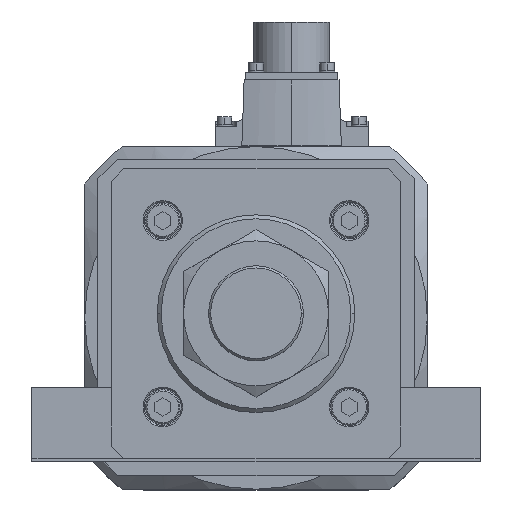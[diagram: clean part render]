
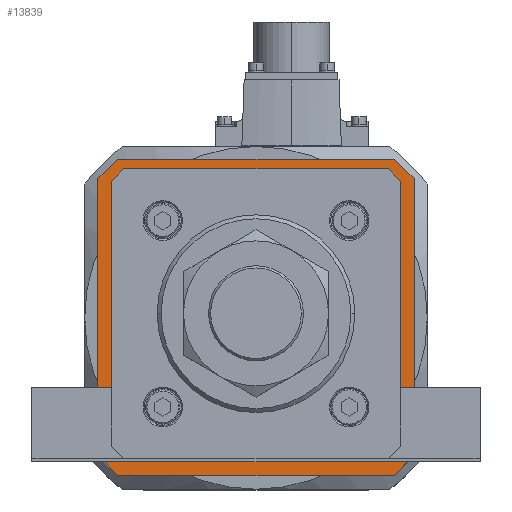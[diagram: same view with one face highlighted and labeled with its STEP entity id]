
A CAD part, top view. The second image highlights one B-rep face of the part: STEP entity #13839.
In plain terms, the highlighted planar face has unit normal (0, 0, 1).
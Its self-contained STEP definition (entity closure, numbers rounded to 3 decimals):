
#44 = VERTEX_POINT ( 'NONE', #32391 ) ;
#456 = LINE ( 'NONE', #16250, #7301 ) ;
#1405 = VECTOR ( 'NONE', #18153, 1000. ) ;
#1407 = EDGE_LOOP ( 'NONE', ( #6747, #28776, #30529, #7152, #24726, #5798, #3588, #14354 ) ) ;
#1465 = DIRECTION ( 'NONE',  ( 0., -1., 0. ) ) ;
#1663 = CARTESIAN_POINT ( 'NONE',  ( -60., -52.5, -119. ) ) ;
#1945 = CARTESIAN_POINT ( 'NONE',  ( -53.5, -49.593, -119. ) ) ;
#2141 = VERTEX_POINT ( 'NONE', #29421 ) ;
#2197 = EDGE_CURVE ( 'NONE', #25783, #32844, #23135, .T. ) ;
#2217 = LINE ( 'NONE', #4865, #24562 ) ;
#2408 = VERTEX_POINT ( 'NONE', #1663 ) ;
#2505 = EDGE_CURVE ( 'NONE', #18772, #2141, #6682, .T. ) ;
#2580 = VECTOR ( 'NONE', #32909, 1000. ) ;
#2734 = LINE ( 'NONE', #3337, #1405 ) ;
#3298 = LINE ( 'NONE', #31165, #33022 ) ;
#3337 = CARTESIAN_POINT ( 'NONE',  ( 52.5, -60., -119. ) ) ;
#3493 = VECTOR ( 'NONE', #33957, 1000. ) ;
#3588 = ORIENTED_EDGE ( 'NONE', *, *, #24661, .T. ) ;
#3602 = VECTOR ( 'NONE', #14915, 1000. ) ;
#4012 = ORIENTED_EDGE ( 'NONE', *, *, #2505, .F. ) ;
#4114 = VERTEX_POINT ( 'NONE', #36220 ) ;
#4865 = CARTESIAN_POINT ( 'NONE',  ( 53.5, -49.8, -119. ) ) ;
#5168 = CARTESIAN_POINT ( 'NONE',  ( 53.5, 49.593, -119. ) ) ;
#5350 = EDGE_CURVE ( 'NONE', #44, #32747, #35282, .T. ) ;
#5582 = CARTESIAN_POINT ( 'NONE',  ( 52.5, 60., -119. ) ) ;
#5798 = ORIENTED_EDGE ( 'NONE', *, *, #9530, .T. ) ;
#5887 = VERTEX_POINT ( 'NONE', #36443 ) ;
#6396 = LINE ( 'NONE', #23434, #3602 ) ;
#6682 = LINE ( 'NONE', #36843, #3493 ) ;
#6747 = ORIENTED_EDGE ( 'NONE', *, *, #35681, .T. ) ;
#6855 = DIRECTION ( 'NONE',  ( 0., 1., 0. ) ) ;
#7152 = ORIENTED_EDGE ( 'NONE', *, *, #35279, .T. ) ;
#7188 = CARTESIAN_POINT ( 'NONE',  ( -53.646, -49.446, -119. ) ) ;
#7301 = VECTOR ( 'NONE', #36630, 1000. ) ;
#7675 = VERTEX_POINT ( 'NONE', #28677 ) ;
#8189 = FACE_OUTER_BOUND ( 'NONE', #30070, .T. ) ;
#8686 = LINE ( 'NONE', #13316, #14164 ) ;
#9399 = ORIENTED_EDGE ( 'NONE', *, *, #2197, .F. ) ;
#9502 = EDGE_CURVE ( 'NONE', #2141, #44, #8686, .T. ) ;
#9530 = EDGE_CURVE ( 'NONE', #36061, #21616, #29676, .T. ) ;
#9971 = PLANE ( 'NONE',  #35302 ) ;
#10093 = CARTESIAN_POINT ( 'NONE',  ( 0., 0., -119. ) ) ;
#10452 = DIRECTION ( 'NONE',  ( 0.707, -0.707, 0. ) ) ;
#12014 = VECTOR ( 'NONE', #26883, 1000. ) ;
#13316 = CARTESIAN_POINT ( 'NONE',  ( 60., 52.5, -119. ) ) ;
#13519 = EDGE_CURVE ( 'NONE', #25162, #4114, #2217, .T. ) ;
#13839 = ADVANCED_FACE ( 'NONE', ( #15960, #8189 ), #9971, .T. ) ;
#14164 = VECTOR ( 'NONE', #1465, 1000. ) ;
#14343 = CARTESIAN_POINT ( 'NONE',  ( 52.5, 60., -119. ) ) ;
#14354 = ORIENTED_EDGE ( 'NONE', *, *, #35190, .T. ) ;
#14557 = CARTESIAN_POINT ( 'NONE',  ( 52.5, -60., -119. ) ) ;
#14648 = DIRECTION ( 'NONE',  ( 0., 1., 0. ) ) ;
#14915 = DIRECTION ( 'NONE',  ( 0.707, 0.707, 0. ) ) ;
#15264 = ORIENTED_EDGE ( 'NONE', *, *, #21603, .F. ) ;
#15456 = EDGE_CURVE ( 'NONE', #16184, #36061, #25834, .T. ) ;
#15574 = DIRECTION ( 'NONE',  ( 1., 0., 0. ) ) ;
#15759 = DIRECTION ( 'NONE',  ( -0.707, 0.707, 0. ) ) ;
#15960 = FACE_BOUND ( 'NONE', #1407, .T. ) ;
#16184 = VERTEX_POINT ( 'NONE', #19351 ) ;
#16188 = ORIENTED_EDGE ( 'NONE', *, *, #9502, .F. ) ;
#16223 = CARTESIAN_POINT ( 'NONE',  ( -53.5, 49.593, -119. ) ) ;
#16250 = CARTESIAN_POINT ( 'NONE',  ( 49.8, 53.5, -119. ) ) ;
#16599 = CARTESIAN_POINT ( 'NONE',  ( -49.593, -53.5, -119. ) ) ;
#17367 = CARTESIAN_POINT ( 'NONE',  ( -60., 52.5, -119. ) ) ;
#17838 = VECTOR ( 'NONE', #28602, 1000. ) ;
#18107 = CARTESIAN_POINT ( 'NONE',  ( 49.446, -53.646, -119. ) ) ;
#18153 = DIRECTION ( 'NONE',  ( -1., 0., 0. ) ) ;
#18560 = VERTEX_POINT ( 'NONE', #16223 ) ;
#18772 = VERTEX_POINT ( 'NONE', #5582 ) ;
#19307 = DIRECTION ( 'NONE',  ( -0.707, 0.707, 0. ) ) ;
#19351 = CARTESIAN_POINT ( 'NONE',  ( 49.593, -53.5, -119. ) ) ;
#20086 = ORIENTED_EDGE ( 'NONE', *, *, #35319, .F. ) ;
#20964 = LINE ( 'NONE', #26338, #24621 ) ;
#21603 = EDGE_CURVE ( 'NONE', #30441, #2408, #3298, .T. ) ;
#21616 = VERTEX_POINT ( 'NONE', #1945 ) ;
#22460 = EDGE_CURVE ( 'NONE', #7675, #25162, #34271, .T. ) ;
#22819 = VECTOR ( 'NONE', #15759, 1000. ) ;
#23135 = LINE ( 'NONE', #28224, #34109 ) ;
#23434 = CARTESIAN_POINT ( 'NONE',  ( -49.446, 53.646, -119. ) ) ;
#24452 = CARTESIAN_POINT ( 'NONE',  ( -60., 52.5, -119. ) ) ;
#24562 = VECTOR ( 'NONE', #32488, 1000. ) ;
#24621 = VECTOR ( 'NONE', #14648, 1000. ) ;
#24661 = EDGE_CURVE ( 'NONE', #21616, #18560, #20964, .T. ) ;
#24726 = ORIENTED_EDGE ( 'NONE', *, *, #15456, .T. ) ;
#25162 = VERTEX_POINT ( 'NONE', #5168 ) ;
#25783 = VERTEX_POINT ( 'NONE', #17367 ) ;
#25834 = LINE ( 'NONE', #29955, #2580 ) ;
#25956 = LINE ( 'NONE', #24452, #26889 ) ;
#26338 = CARTESIAN_POINT ( 'NONE',  ( -53.5, 49.8, -119. ) ) ;
#26883 = DIRECTION ( 'NONE',  ( -0.707, -0.707, 0. ) ) ;
#26889 = VECTOR ( 'NONE', #6855, 1000. ) ;
#27281 = DIRECTION ( 'NONE',  ( 0., 0., 1. ) ) ;
#27407 = LINE ( 'NONE', #14343, #17838 ) ;
#28224 = CARTESIAN_POINT ( 'NONE',  ( -52.5, 60., -119. ) ) ;
#28602 = DIRECTION ( 'NONE',  ( 1., 0., 0. ) ) ;
#28677 = CARTESIAN_POINT ( 'NONE',  ( 49.593, 53.5, -119. ) ) ;
#28776 = ORIENTED_EDGE ( 'NONE', *, *, #22460, .T. ) ;
#29421 = CARTESIAN_POINT ( 'NONE',  ( 60., 52.5, -119. ) ) ;
#29676 = LINE ( 'NONE', #7188, #22819 ) ;
#29953 = CARTESIAN_POINT ( 'NONE',  ( 60., -52.5, -119. ) ) ;
#29955 = CARTESIAN_POINT ( 'NONE',  ( -49.8, -53.5, -119. ) ) ;
#30070 = EDGE_LOOP ( 'NONE', ( #35311, #9399, #20086, #15264, #33368, #34431, #16188, #4012 ) ) ;
#30085 = LINE ( 'NONE', #18107, #34641 ) ;
#30441 = VERTEX_POINT ( 'NONE', #34969 ) ;
#30529 = ORIENTED_EDGE ( 'NONE', *, *, #13519, .T. ) ;
#30623 = EDGE_CURVE ( 'NONE', #32747, #30441, #2734, .T. ) ;
#31165 = CARTESIAN_POINT ( 'NONE',  ( -52.5, -60., -119. ) ) ;
#32391 = CARTESIAN_POINT ( 'NONE',  ( 60., -52.5, -119. ) ) ;
#32488 = DIRECTION ( 'NONE',  ( 0., -1., 0. ) ) ;
#32747 = VERTEX_POINT ( 'NONE', #14557 ) ;
#32844 = VERTEX_POINT ( 'NONE', #33235 ) ;
#32909 = DIRECTION ( 'NONE',  ( -1., 0., 0. ) ) ;
#33022 = VECTOR ( 'NONE', #19307, 1000. ) ;
#33235 = CARTESIAN_POINT ( 'NONE',  ( -52.5, 60., -119. ) ) ;
#33368 = ORIENTED_EDGE ( 'NONE', *, *, #30623, .F. ) ;
#33615 = DIRECTION ( 'NONE',  ( 0.707, 0.707, 0. ) ) ;
#33916 = CARTESIAN_POINT ( 'NONE',  ( 53.646, 49.446, -119. ) ) ;
#33957 = DIRECTION ( 'NONE',  ( 0.707, -0.707, 0. ) ) ;
#34109 = VECTOR ( 'NONE', #33615, 1000. ) ;
#34271 = LINE ( 'NONE', #33916, #37420 ) ;
#34431 = ORIENTED_EDGE ( 'NONE', *, *, #5350, .F. ) ;
#34641 = VECTOR ( 'NONE', #36056, 1000. ) ;
#34666 = EDGE_CURVE ( 'NONE', #32844, #18772, #27407, .T. ) ;
#34969 = CARTESIAN_POINT ( 'NONE',  ( -52.5, -60., -119. ) ) ;
#35190 = EDGE_CURVE ( 'NONE', #18560, #5887, #6396, .T. ) ;
#35279 = EDGE_CURVE ( 'NONE', #4114, #16184, #30085, .T. ) ;
#35282 = LINE ( 'NONE', #29953, #12014 ) ;
#35302 = AXIS2_PLACEMENT_3D ( 'NONE', #10093, #27281, #15574 ) ;
#35311 = ORIENTED_EDGE ( 'NONE', *, *, #34666, .F. ) ;
#35319 = EDGE_CURVE ( 'NONE', #2408, #25783, #25956, .T. ) ;
#35681 = EDGE_CURVE ( 'NONE', #5887, #7675, #456, .T. ) ;
#36056 = DIRECTION ( 'NONE',  ( -0.707, -0.707, 0. ) ) ;
#36061 = VERTEX_POINT ( 'NONE', #16599 ) ;
#36220 = CARTESIAN_POINT ( 'NONE',  ( 53.5, -49.593, -119. ) ) ;
#36443 = CARTESIAN_POINT ( 'NONE',  ( -49.593, 53.5, -119. ) ) ;
#36630 = DIRECTION ( 'NONE',  ( 1., 0., 0. ) ) ;
#36843 = CARTESIAN_POINT ( 'NONE',  ( 60., 52.5, -119. ) ) ;
#37420 = VECTOR ( 'NONE', #10452, 1000. ) ;
